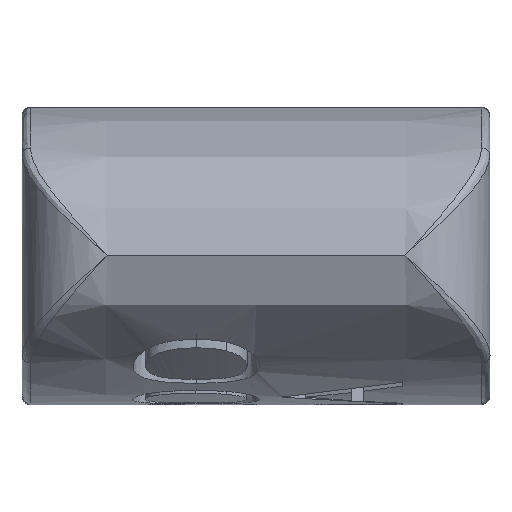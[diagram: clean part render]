
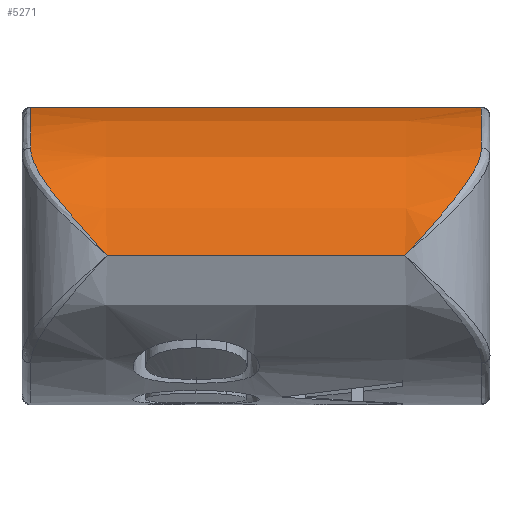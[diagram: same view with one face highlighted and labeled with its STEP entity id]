
A CAD part, top view. The second image highlights one B-rep face of the part: STEP entity #5271.
In plain terms, the highlighted face is a extrusion surface.
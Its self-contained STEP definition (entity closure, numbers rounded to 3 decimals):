
#284=CARTESIAN_POINT('',(2.65,1.743,3.219));
#285=CARTESIAN_POINT('',(2.65,1.743,3.21));
#286=CARTESIAN_POINT('',(2.651,1.744,3.201));
#287=CARTESIAN_POINT('',(2.651,1.744,3.191));
#312=CARTESIAN_POINT('',(2.65,1.265,5.043));
#313=CARTESIAN_POINT('',(2.65,1.342,4.901));
#314=CARTESIAN_POINT('',(2.65,1.471,4.611));
#315=CARTESIAN_POINT('',(2.65,1.609,4.159));
#316=CARTESIAN_POINT('',(2.65,1.701,3.692));
#317=CARTESIAN_POINT('',(2.65,1.733,3.377));
#318=CARTESIAN_POINT('',(2.65,1.743,3.219));
#323=CARTESIAN_POINT('',(2.65,1.743,3.219));
#334=CARTESIAN_POINT('',(1.75,0.002,5.995));
#335=CARTESIAN_POINT('',(1.911,0.167,5.995));
#336=CARTESIAN_POINT('',(2.205,0.509,5.907));
#337=CARTESIAN_POINT('',(2.556,0.943,5.55));
#338=CARTESIAN_POINT('',(2.65,1.17,5.217));
#339=CARTESIAN_POINT('',(2.65,1.265,5.043));
#344=CARTESIAN_POINT('',(2.65,1.265,5.043));
#365=DIRECTION('',(-1.,0.,0.));
#366=VECTOR('',#365,3.5);
#367=CARTESIAN_POINT('',(1.75,0.002,5.995));
#368=LINE('',#367,#366);
#372=CARTESIAN_POINT('',(-1.75,0.002,5.995));
#373=CARTESIAN_POINT('',(-1.777,0.032,5.995));
#374=CARTESIAN_POINT('',(-1.832,0.093,5.992));
#375=CARTESIAN_POINT('',(-1.94,0.213,5.976));
#376=CARTESIAN_POINT('',(-2.073,0.361,5.935));
#377=CARTESIAN_POINT('',(-2.198,0.505,5.868));
#378=CARTESIAN_POINT('',(-2.292,0.618,5.799));
#379=CARTESIAN_POINT('',(-2.358,0.7,5.74));
#380=CARTESIAN_POINT('',(-2.42,0.781,5.673));
#381=CARTESIAN_POINT('',(-2.495,0.885,5.575));
#382=CARTESIAN_POINT('',(-2.573,1.009,5.437));
#383=CARTESIAN_POINT('',(-2.635,1.145,5.249));
#384=CARTESIAN_POINT('',(-2.65,1.227,5.113));
#385=CARTESIAN_POINT('',(-2.65,1.265,5.043));
#390=DIRECTION('',(1.,0.,0.));
#391=VECTOR('',#390,5.301);
#392=CARTESIAN_POINT('',(-2.65,1.744,3.191));
#393=LINE('',#392,#391);
#1463=CARTESIAN_POINT('',(-2.65,1.744,3.191));
#1464=CARTESIAN_POINT('',(-2.65,1.736,3.346));
#1465=CARTESIAN_POINT('',(-2.65,1.705,3.663));
#1466=CARTESIAN_POINT('',(-2.65,1.614,4.137));
#1467=CARTESIAN_POINT('',(-2.65,1.476,4.601));
#1468=CARTESIAN_POINT('',(-2.65,1.343,4.898));
#1469=CARTESIAN_POINT('',(-2.65,1.265,5.043));
#4298=VERTEX_POINT('',#323);
#4299=VERTEX_POINT('',#287);
#4301=VERTEX_POINT('',#344);
#4302=VERTEX_POINT('',#334);
#4303=CARTESIAN_POINT('',(-1.75,0.002,5.995));
#4304=VERTEX_POINT('',#4303);
#4305=VERTEX_POINT('',#385);
#4306=VERTEX_POINT('',#1463);
#5242=CARTESIAN_POINT('',(2.77,1.748,3.1));
#5243=CARTESIAN_POINT('',(2.77,1.747,3.131));
#5244=CARTESIAN_POINT('',(2.77,1.731,3.496));
#5245=CARTESIAN_POINT('',(2.77,1.62,4.267));
#5246=CARTESIAN_POINT('',(2.77,1.197,5.284));
#5247=CARTESIAN_POINT('',(2.77,0.59,5.89));
#5248=CARTESIAN_POINT('',(2.77,0.148,6.003));
#5249=CARTESIAN_POINT('',(2.77,-0.058,
5.994));
#5250=CARTESIAN_POINT('',(2.77,-0.087,
5.991));
#5255=DIRECTION('',(-1.,0.,0.));
#5256=VECTOR('',#5255,1.);
#5257=SURFACE_OF_LINEAR_EXTRUSION('',#5251,#5256);
#5259=ORIENTED_EDGE('',*,*,#5258,.T.);
#5261=ORIENTED_EDGE('',*,*,#5260,.T.);
#5263=ORIENTED_EDGE('',*,*,#5262,.F.);
#5265=ORIENTED_EDGE('',*,*,#5264,.T.);
#5266=ORIENTED_EDGE('',*,*,#5045,.F.);
#5267=ORIENTED_EDGE('',*,*,#5114,.F.);
#5268=ORIENTED_EDGE('',*,*,#5227,.F.);
#5269=EDGE_LOOP('',(#5259,#5261,#5263,#5265,#5266,#5267,#5268));
#5270=FACE_OUTER_BOUND('',#5269,.F.);
#288=B_SPLINE_CURVE_WITH_KNOTS('',3,(#284,#285,#286,#287),.UNSPECIFIED.,.F.,.F.,
(4,4),(0.,1.),.UNSPECIFIED.);
#319=B_SPLINE_CURVE_WITH_KNOTS('',3,(#312,#313,#314,#315,#316,#317,#318),
.UNSPECIFIED.,.F.,.F.,(4,1,1,1,4),(0.,0.25,0.5,
0.75,1.),.UNSPECIFIED.);
#340=B_SPLINE_CURVE_WITH_KNOTS('',3,(#334,#335,#336,#337,#338,#339),
.UNSPECIFIED.,.F.,.F.,(4,1,1,4),(0.,0.333,0.667,1.),
.UNSPECIFIED.);
#386=B_SPLINE_CURVE_WITH_KNOTS('',3,(#372,#373,#374,#375,#376,#377,#378,#379,
#380,#381,#382,#383,#384,#385),.UNSPECIFIED.,.F.,.F.,(4,1,1,1,1,1,1,1,1,1,1,4),(
0.,0.063,0.125,0.25,0.375,
0.438,0.5,0.563,0.625,
0.75,0.875,1.),.UNSPECIFIED.);
#1470=B_SPLINE_CURVE_WITH_KNOTS('',3,(#1463,#1464,#1465,#1466,#1467,#1468,
#1469),.UNSPECIFIED.,.F.,.F.,(4,1,1,1,4),(0.,0.245,
0.497,0.748,1.),.UNSPECIFIED.);
#5045=EDGE_CURVE('',#4298,#4299,#288,.T.);
#5114=EDGE_CURVE('',#4301,#4298,#319,.T.);
#5227=EDGE_CURVE('',#4302,#4301,#340,.T.);
#5251=B_SPLINE_CURVE_WITH_KNOTS('',3,(#5242,#5243,#5244,#5245,#5246,#5247,#5248,
#5249,#5250),.UNSPECIFIED.,.F.,.F.,(4,1,1,1,1,1,4),(0.,0.021,
0.25,0.5,0.75,0.964,1.),
.UNSPECIFIED.);
#5258=EDGE_CURVE('',#4302,#4304,#368,.T.);
#5260=EDGE_CURVE('',#4304,#4305,#386,.T.);
#5262=EDGE_CURVE('',#4306,#4305,#1470,.T.);
#5264=EDGE_CURVE('',#4306,#4299,#393,.T.);
#5271=ADVANCED_FACE('',(#5270),#5257,.F.);
